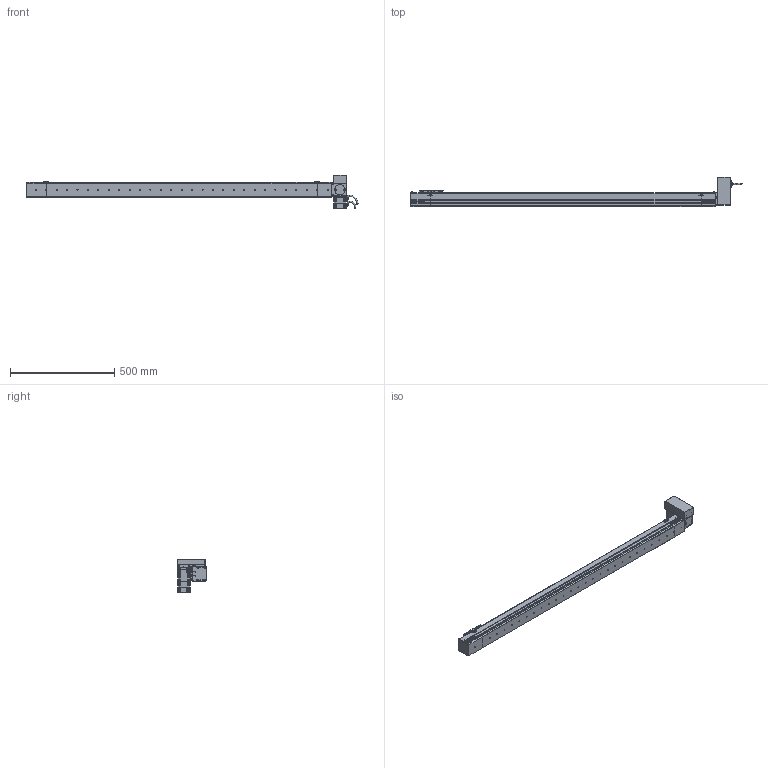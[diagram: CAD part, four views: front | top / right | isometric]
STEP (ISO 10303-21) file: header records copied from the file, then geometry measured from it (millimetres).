
FILE_DESCRIPTION (( 'STEP AP214' ), '1' );
FILE_NAME ('S07 CBN LT S1300.STEP', '2010-06-29T10:47:21', ( 'Conseil Régional Haute-Normandie' ), ( 'Conseil Régional Haute-Normandie' ), 'SwSTEP 2.0', 'SolidWorks 2010', '' );
FILE_SCHEMA (( 'AUTOMOTIVE_DESIGN' ));
Length unit declared in the file: millimetre
Products named in the file (31): Corp S07 S1300_Default; vis M5 L8_Default; support chariot_Default; chariot_Default; Chariot S07_Default; vis M5 L15_Default; plaque de serrage Tail_Default; Plaque de bout Tail_Default; Couvercle Tail_Default; Corp Tail_Default; Tail S07 Tail_Default; Couvercle S07 S1300_Default; Conecteur 60BLDC_Default; P4_Default; P3 90A_Default; Axe 60BLDC_Default; P2 90A_Default; P1_Default; 60BLDC90A-640_Default; Conecteur2 60BLDC_Default; Support Moteur LT_Default; VisM3_Default; Head LT_Default; S07 CBN LT S1300; Couvercle LT_Default; Corp LT_Default; Plaque de bout LT_Default; plaque de serrage LT_Default; Rondelle de Serrage LT_Default; Cache Support Moteur LT_Default
Assembly tree (71 placements, depth 4):
  S07 CBN LT S1300
    Head LT_Default
      plaque de serrage LT_Default
      vis M5 L15_Default  x16
      Couvercle LT_Default
      Support Moteur LT_Default
      Cache Support Moteur LT_Default
      60BLDC90A-640_Default
        P2 90A_Default
        P1_Default
        Conecteur 60BLDC_Default
        VisM3_Default  x12
        P3 90A_Default
        Axe 60BLDC_Default
        P4_Default
        Conecteur2 60BLDC_Default
      Plaque de bout LT_Default
      Rondelle de Serrage LT_Default  x3
      Corp LT_Default
    Tail S07 Tail_Default
      vis M5 L15_Default  x6
      Couvercle Tail_Default
      plaque de serrage Tail_Default
      Corp Tail_Default
      Plaque de bout Tail_Default
    Corp S07 S1300_Default
      Couvercle S07 S1300_Default
      Corp S07 S1300_Default
    Chariot S07_Default
      vis M5 L8_Default  x8
      support chariot_Default
      chariot_Default
Bounding box: 1593.2 x 141 x 162 mm (x, y, z)
Volume: 7505102.4 mm3; surface area: 887967.2 mm2
Topology: 108 solids, 108 shells, 3928 faces, 9662 edges, 6220 vertices
Faces by surface type: plane 2262, bspline 756, cylinder 699, torus 112, cone 95, sphere 4
Entity records: 154313 total; most frequent: CARTESIAN_POINT 79747, ORIENTED_EDGE 14844, DIRECTION 11155, EDGE_CURVE 7422, VERTEX_POINT 4905, LINE 4797, VECTOR 4797, EDGE_LOOP 3197
